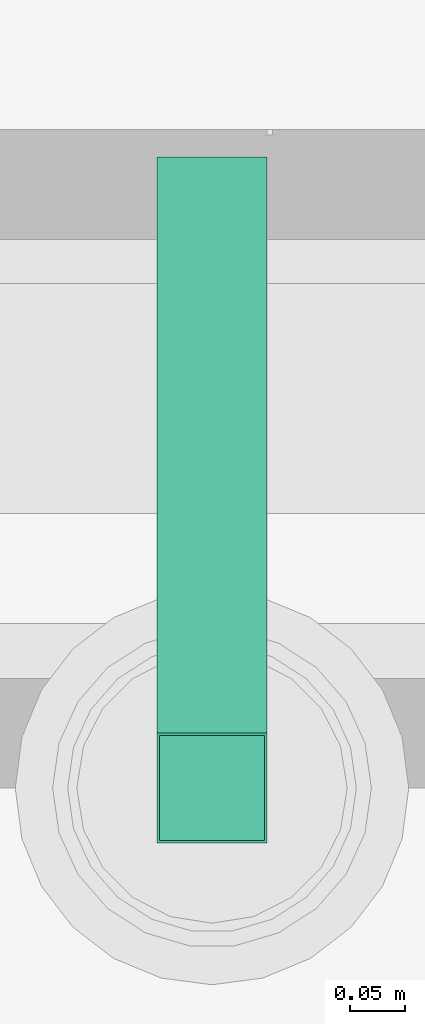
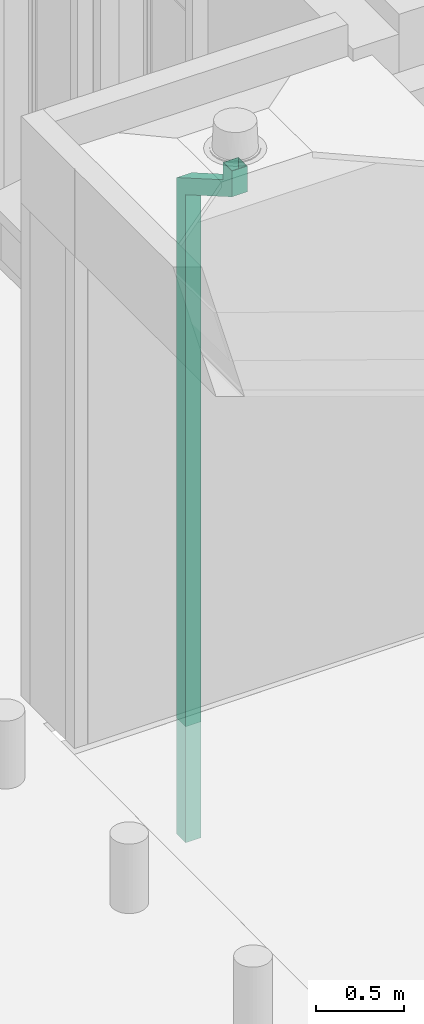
# One storey, part 75 of 77: 2 flow terminals.
"""IFC2X3 building model written with IfcOpenShell, lengths in millimetres."""

from ifc_helpers import new_model, entity, si_unit, converted_unit, derived_unit, direction, frame, origin, place, context, subcontext, project, spatial, faceted_brep, source, transform, mapped, material, element, save


model = new_model("IFC2X3")

# Units and contexts
model_context = context("Model", 3, precision=0.01, world=origin(), true_north=direction((6.12303176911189e-17, 1.0)))
body_context = subcontext(model_context, "Body", "Model", "MODEL_VIEW")
ifc_project = project(units=[si_unit("LENGTHUNIT", "METRE", prefix="MILLI"), si_unit("AREAUNIT", "SQUARE_METRE"), si_unit("VOLUMEUNIT", "CUBIC_METRE"), converted_unit("PLANEANGLEUNIT", "DEGREE", entity("IfcRatioMeasure", 0.0174532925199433), si_unit("PLANEANGLEUNIT", "RADIAN"), dimensions=[0, 0, 0, 0, 0, 0, 0]), si_unit("MASSUNIT", "GRAM", prefix="KILO"), derived_unit("MASSDENSITYUNIT", [(si_unit("MASSUNIT", "GRAM", prefix="KILO"), 1), (si_unit("LENGTHUNIT", "METRE"), -3)]), si_unit("TIMEUNIT", "SECOND"), si_unit("FREQUENCYUNIT", "HERTZ"), si_unit("THERMODYNAMICTEMPERATUREUNIT", "DEGREE_CELSIUS"), derived_unit("THERMALTRANSMITTANCEUNIT", [(si_unit("MASSUNIT", "GRAM", prefix="KILO"), 1), (si_unit("THERMODYNAMICTEMPERATUREUNIT", "KELVIN"), -1), (si_unit("TIMEUNIT", "SECOND"), -3)]), derived_unit("VOLUMETRICFLOWRATEUNIT", [(si_unit("LENGTHUNIT", "METRE"), 3), (si_unit("TIMEUNIT", "SECOND"), -1)]), si_unit("ELECTRICCURRENTUNIT", "AMPERE"), si_unit("ELECTRICVOLTAGEUNIT", "VOLT"), si_unit("POWERUNIT", "WATT"), si_unit("FORCEUNIT", "NEWTON", prefix="KILO"), si_unit("ILLUMINANCEUNIT", "LUX"), si_unit("LUMINOUSFLUXUNIT", "LUMEN"), si_unit("LUMINOUSINTENSITYUNIT", "CANDELA"), derived_unit("USERDEFINED", [(si_unit("MASSUNIT", "GRAM", prefix="KILO"), -1), (si_unit("LENGTHUNIT", "METRE"), -2), (si_unit("TIMEUNIT", "SECOND"), 3), (si_unit("LUMINOUSFLUXUNIT", "LUMEN"), 1)]), derived_unit("LINEARVELOCITYUNIT", [(si_unit("LENGTHUNIT", "METRE"), 1), (si_unit("TIMEUNIT", "SECOND"), -1)]), si_unit("PRESSUREUNIT", "PASCAL"), derived_unit("USERDEFINED", [(si_unit("LENGTHUNIT", "METRE"), -2), (si_unit("MASSUNIT", "GRAM", prefix="KILO"), 1), (si_unit("TIMEUNIT", "SECOND"), -2)])], contexts=[model_context])

# Site, building, storey
site_placement = place(None, origin())
site = spatial("IfcSite", under=ifc_project, at=site_placement, Name="Default", CompositionType="ELEMENT")
building_placement = place(site_placement, origin())
building = spatial("IfcBuilding", under=site, at=building_placement, CompositionType="ELEMENT")
storey_placement = place(building_placement, origin())
storey = spatial("IfcBuildingStorey", under=building, at=storey_placement, Name="1. KORRUS", CompositionType="ELEMENT", Elevation=0.0)

# Flow terminals
ifc_material = material(Name="Must-al-komposiitplaat")
shared_shape_1 = source(origin(), body_context, "Body", "Brep", [
    faceted_brep([(100.0, 0.0, 4953.1088913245), (100.0, 100.0, 4953.1088913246), (0.0, 100.0, 4953.1088913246), (0.0, 0.0, 4953.1088913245), (2.0, 98.0, 4953.1088913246), (98.0, 98.0, 4953.1088913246), (98.0, 2.0, 4953.1088913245), (2.0, 2.0, 4953.1088913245), (100.0, 0.0, 4774.2413778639), (100.0, 525.0, 4471.13248653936), (100.0, 525.0, 0.0), (100.0, 625.0, 0.0), (100.0, 625.0, 4528.86751345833), (100.0, 100.0, 4831.97640478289), (0.0, 100.0, 4831.97640478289), (0.0, 625.0, 4528.86751345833), (0.0, 625.0, 0.0), (0.0, 525.0, 0.0), (0.0, 525.0, 4471.13248653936), (0.0, 0.0, 4774.24137786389), (2.0, 98.0, 4830.82170424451), (98.0, 98.0, 4830.82170424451), (98.0, 623.0, 4527.71281291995), (98.0, 623.0, 0.0), (98.0, 527.0, 0.0), (98.0, 527.0, 4472.28718707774), (98.0, 2.0, 4775.39607840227), (2.0, 2.0, 4775.39607840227), (2.0, 527.0, 4472.28718707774), (2.0, 527.0, 0.0), (2.0, 623.0, 0.0), (2.0, 623.0, 4527.71281291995)], [[[0, 1, 2, 3], [4, 5, 6, 7]], [[1, 0, 8, 9, 10, 11, 12, 13]], [[2, 1, 13, 14]], [[3, 2, 14, 15, 16, 17, 18, 19]], [[0, 3, 19, 8]], [[5, 4, 20, 21]], [[6, 5, 21, 22, 23, 24, 25, 26]], [[7, 6, 26, 27]], [[4, 7, 27, 28, 29, 30, 31, 20]], [[14, 13, 12, 15]], [[8, 19, 18, 9]], [[21, 20, 31, 22]], [[27, 26, 25, 28]], [[15, 12, 11, 16]], [[9, 18, 17, 10]], [[22, 31, 30, 23]], [[28, 25, 24, 29]], [[30, 29, 24, 23], [10, 17, 16, 11]]], outer=[[True, False], [True], [True], [True], [True], [True], [True], [True], [True], [True], [True], [True], [True], [True], [True], [True], [True], [False, True]]),
])
flow_terminal_1_placement = place(storey_placement, frame((-1500.0, 12350.0, -1287.63369132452)))
element("IfcFlowTerminal", 1, at=flow_terminal_1_placement, inside=storey, material=ifc_material, Name="varikatuse vihmaveetoru 1:varikatuse vihmaveetoru 1", ObjectType="varikatuse vihmaveetoru 1", context=body_context, shape_type="MappedRepresentation", body=[
    mapped(shared_shape_1, transform((0.0, 0.0, 0.0), scale=1.0)),
])
shared_shape_2 = source(origin(), body_context, "Body", "Brep", [
    faceted_brep([(100.0, 0.0, 4153.1088913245), (100.0, 100.0, 4153.1088913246), (0.0, 100.0, 4153.1088913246), (0.0, 0.0, 4153.1088913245), (2.0, 98.0, 4153.1088913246), (98.0, 98.0, 4153.1088913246), (98.0, 2.0, 4153.1088913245), (2.0, 2.0, 4153.1088913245), (100.0, 0.0, 3974.2413778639), (100.0, 525.0, 3671.13248653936), (100.0, 525.0, 3600.0), (100.0, 625.0, 3600.0), (100.0, 625.0, 3728.86751345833), (100.0, 100.0, 4031.97640478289), (0.0, 100.0, 4031.97640478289), (0.0, 625.0, 3728.86751345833), (0.0, 625.0, 3600.0), (0.0, 525.0, 3600.0), (0.0, 525.0, 3671.13248653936), (0.0, 0.0, 3974.24137786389), (2.0, 98.0, 4030.82170424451), (98.0, 98.0, 4030.82170424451), (98.0, 623.0, 3727.71281291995), (98.0, 623.0, 3600.0), (98.0, 527.0, 3600.0), (98.0, 527.0, 3672.28718707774), (98.0, 2.0, 3975.39607840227), (2.0, 2.0, 3975.39607840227), (2.0, 527.0, 3672.28718707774), (2.0, 527.0, 3600.0), (2.0, 623.0, 3600.0), (2.0, 623.0, 3727.71281291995)], [[[0, 1, 2, 3], [4, 5, 6, 7]], [[1, 0, 8, 9, 10, 11, 12, 13]], [[2, 1, 13, 14]], [[3, 2, 14, 15, 16, 17, 18, 19]], [[0, 3, 19, 8]], [[5, 4, 20, 21]], [[6, 5, 21, 22, 23, 24, 25, 26]], [[7, 6, 26, 27]], [[4, 7, 27, 28, 29, 30, 31, 20]], [[14, 13, 12, 15]], [[8, 19, 18, 9]], [[21, 20, 31, 22]], [[27, 26, 25, 28]], [[15, 12, 11, 16]], [[9, 18, 17, 10]], [[22, 31, 30, 23]], [[28, 25, 24, 29]], [[30, 29, 24, 23], [10, 17, 16, 11]]], outer=[[True, False], [True], [True], [True], [True], [True], [True], [True], [True], [True], [True], [True], [True], [True], [True], [True], [True], [False, True]]),
    faceted_brep([(100.0, 525.0, 3600.0), (100.0, 625.0, 3600.0), (0.0, 625.0, 3600.0), (0.0, 525.0, 3600.0), (2.0, 623.0, 3600.0), (98.0, 623.0, 3600.0), (98.0, 527.0, 3600.0), (2.0, 527.0, 3600.0), (100.0, 525.0, 0.0), (100.0, 625.0, 0.0), (0.0, 625.0, 0.0), (0.0, 525.0, 0.0), (2.0, 623.0, 0.0), (98.0, 623.0, 0.0), (98.0, 527.0, 0.0), (2.0, 527.0, 0.0)], [[[0, 1, 2, 3], [4, 5, 6, 7]], [[1, 0, 8, 9]], [[2, 1, 9, 10]], [[3, 2, 10, 11]], [[0, 3, 11, 8]], [[5, 4, 12, 13]], [[6, 5, 13, 14]], [[7, 6, 14, 15]], [[4, 7, 15, 12]], [[8, 11, 10, 9], [12, 15, 14, 13]]]),
])
flow_terminal_2_placement = place(storey_placement, frame((-1500.0, 12350.0, -487.63369132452)))
element("IfcFlowTerminal", 2, at=flow_terminal_2_placement, inside=storey, material=ifc_material, Name="varikatuse vihmaveetoru 2:varikatuse vihmaveetoru 1", ObjectType="varikatuse vihmaveetoru 1", context=body_context, shape_type="MappedRepresentation", body=[
    mapped(shared_shape_2, transform((0.0, 0.0, 0.0), scale=1.0)),
])

save(model, "model.ifc")
